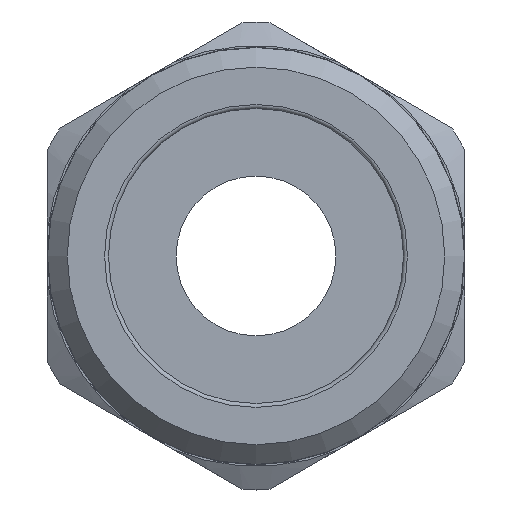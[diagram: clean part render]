
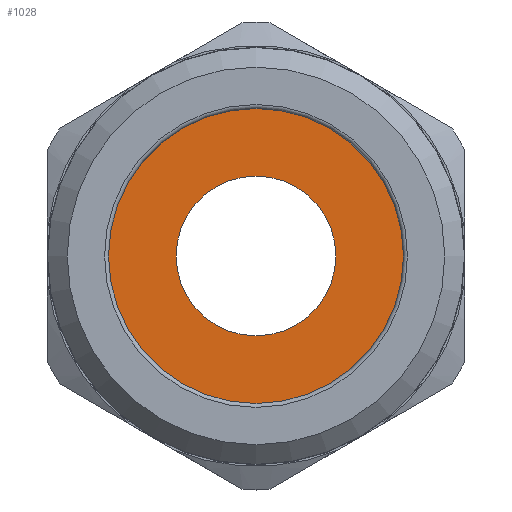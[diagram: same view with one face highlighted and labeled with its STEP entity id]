
A CAD part, front view. The second image highlights one B-rep face of the part: STEP entity #1028.
In plain terms, the highlighted planar face has unit normal (0, -1, 0).
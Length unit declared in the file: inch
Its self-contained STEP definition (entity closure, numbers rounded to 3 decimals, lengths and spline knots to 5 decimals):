
#60=FACE_BOUND('',#227,.T.);
#84=PLANE('',#1198);
#159=FACE_OUTER_BOUND('',#226,.T.);
#226=EDGE_LOOP('',(#938,#939));
#227=EDGE_LOOP('',(#940,#941));
#369=CIRCLE('',#1135,0.375);
#370=CIRCLE('',#1136,0.375);
#404=CIRCLE('',#1199,0.203);
#405=CIRCLE('',#1200,0.203);
#456=VERTEX_POINT('',#1691);
#457=VERTEX_POINT('',#1693);
#509=VERTEX_POINT('',#1890);
#510=VERTEX_POINT('',#1891);
#577=EDGE_CURVE('',#457,#456,#369,.T.);
#578=EDGE_CURVE('',#456,#457,#370,.T.);
#657=EDGE_CURVE('',#509,#510,#404,.T.);
#658=EDGE_CURVE('',#510,#509,#405,.T.);
#938=ORIENTED_EDGE('',*,*,#577,.T.);
#939=ORIENTED_EDGE('',*,*,#578,.T.);
#940=ORIENTED_EDGE('',*,*,#657,.F.);
#941=ORIENTED_EDGE('',*,*,#658,.F.);
#1028=ADVANCED_FACE('',(#159,#60),#84,.T.);
#1135=AXIS2_PLACEMENT_3D('',#1694,#1377,#1378);
#1136=AXIS2_PLACEMENT_3D('',#1695,#1379,#1380);
#1198=AXIS2_PLACEMENT_3D('',#1889,#1530,#1531);
#1199=AXIS2_PLACEMENT_3D('',#1892,#1532,#1533);
#1200=AXIS2_PLACEMENT_3D('',#1893,#1534,#1535);
#1377=DIRECTION('center_axis',(0.,-1.,0.));
#1378=DIRECTION('ref_axis',(1.,0.,0.));
#1379=DIRECTION('center_axis',(0.,-1.,0.));
#1380=DIRECTION('ref_axis',(1.,0.,0.));
#1530=DIRECTION('center_axis',(0.,-1.,0.));
#1531=DIRECTION('ref_axis',(0.,0.,-1.));
#1532=DIRECTION('center_axis',(0.,-1.,0.));
#1533=DIRECTION('ref_axis',(1.,0.,0.));
#1534=DIRECTION('center_axis',(0.,-1.,0.));
#1535=DIRECTION('ref_axis',(1.,0.,0.));
#1691=CARTESIAN_POINT('',(0.,-0.25,0.375));
#1693=CARTESIAN_POINT('',(0.,-0.25,-0.375));
#1694=CARTESIAN_POINT('Origin',(0.,-0.25,0.));
#1695=CARTESIAN_POINT('Origin',(0.,-0.25,0.));
#1889=CARTESIAN_POINT('Origin',(0.,-0.25,-0.203));
#1890=CARTESIAN_POINT('',(0.,-0.25,-0.203));
#1891=CARTESIAN_POINT('',(0.,-0.25,0.203));
#1892=CARTESIAN_POINT('Origin',(0.,-0.25,0.));
#1893=CARTESIAN_POINT('Origin',(0.,-0.25,0.));
